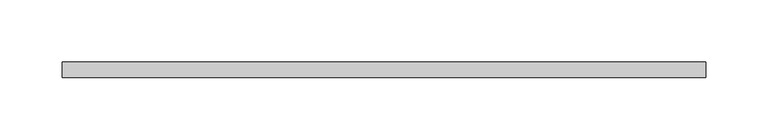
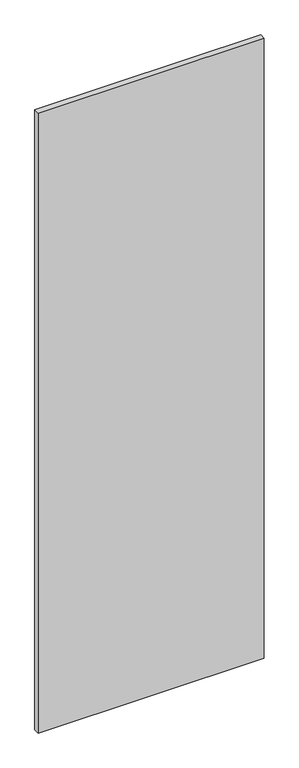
"""IFC4 building model written with IfcOpenShell, lengths in millimetres: proxy geometry, КНАУФ-Суперлист : КНАУФ-Суперлист."""

import ifcopenshell
import ifcopenshell.guid

model = None  # the IFC model being written
_history = None  # IfcOwnerHistory: only IFC2X3 demands one
_inside = {}  # id of a spatial element -> (the spatial element, [elements in it])
_under = {}  # id of a project, library or spatial element -> (it, [spatial elements below it])
_declared = {}  # id of a project -> (the project, [libraries it declares])
_typed = {}  # id of a type object -> (the type object, [elements of that type])
_made_of = {}  # id of a material, layer set ... -> (it, [elements and type objects made of it])


def new_model(schema):
    """Start an empty IFC model of exactly this schema.

    Asked for "IFC4X3", IfcOpenShell would pick the latest addendum, in which some entities
    have other attributes; the version numbers below select the first issue.
    IFC2X3 requires an IfcOwnerHistory on every rooted entity: one is made here for all.
    """
    global model, _history
    if schema == "IFC4X3":
        model = ifcopenshell.file(schema_version=(4, 3, 0, 0))
    else:
        model = ifcopenshell.file(schema=schema)
    _inside.clear()
    _under.clear()
    _declared.clear()
    _typed.clear()
    _made_of.clear()
    _history = None
    if model.schema == "IFC2X3":
        org = make("IfcOrganization", Name="unknown")
        user = make(
            "IfcPersonAndOrganization",
            ThePerson=make("IfcPerson", FamilyName="unknown"),
            TheOrganization=org,
        )
        app = make(
            "IfcApplication",
            ApplicationDeveloper=org,
            Version="unknown",
            ApplicationFullName="unknown",
            ApplicationIdentifier="unknown",
        )
        _history = make(
            "IfcOwnerHistory",
            OwningUser=user,
            OwningApplication=app,
            ChangeAction="ADDED",
            CreationDate=0,
        )
    return model


def make(cls, **values):
    """One entity of the class cls with the attributes given. An attribute that is None is left unset."""
    return model.create_entity(
        cls, **{name: value for name, value in values.items() if value is not None}
    )


def rooted(cls, **values):
    """An entity with a GlobalId (a new one), such as an element, a storey or a relation."""
    return make(cls, GlobalId=ifcopenshell.guid.new(), OwnerHistory=_history, **values)


def si_unit(unit_type, name, prefix=None):
    """IfcSIUnit, for example si_unit("LENGTHUNIT", "METRE", prefix="MILLI")."""
    return make("IfcSIUnit", UnitType=unit_type, Prefix=prefix, Name=name)


def assignment(units):
    """IfcUnitAssignment: the units of a project."""
    return None if units is None else make("IfcUnitAssignment", Units=units)


def point(xyz):
    """IfcCartesianPoint."""
    return None if xyz is None else make("IfcCartesianPoint", Coordinates=xyz)


def direction(xyz):
    """IfcDirection."""
    return None if xyz is None else make("IfcDirection", DirectionRatios=xyz)


def frame(location, z_axis=None, x_axis=None):
    """IfcAxis2Placement3D, a coordinate frame: its origin and axes. An axis left out is left unset."""
    return make(
        "IfcAxis2Placement3D",
        Location=point(location),
        Axis=direction(z_axis),
        RefDirection=direction(x_axis),
    )


def origin():
    """The frame at (0, 0, 0) with its axes left unset."""
    return frame((0.0, 0.0, 0.0))


def origin_with_axes():
    """The frame at (0, 0, 0) with the z axis (0, 0, 1) and the x axis (1, 0, 0) written out."""
    return frame((0.0, 0.0, 0.0), z_axis=(0.0, 0.0, 1.0), x_axis=(1.0, 0.0, 0.0))


def place(relative_to, where):
    """IfcLocalPlacement: puts the frame where relative to a parent placement (None: the world)."""
    return make(
        "IfcLocalPlacement", PlacementRelTo=relative_to, RelativePlacement=where
    )


def context(
    kind, dimensions, precision=None, world=None, true_north=None, identifier=None
):
    """IfcGeometricRepresentationContext, for example the 3D "Model" context."""
    return make(
        "IfcGeometricRepresentationContext",
        ContextIdentifier=identifier,
        ContextType=kind,
        CoordinateSpaceDimension=dimensions,
        Precision=precision,
        WorldCoordinateSystem=world,
        TrueNorth=true_north,
    )


def project(units=None, contexts=None):
    """IfcProject with its units and contexts."""
    return rooted(
        "IfcProject",
        Name="project",
        RepresentationContexts=contexts,
        UnitsInContext=assignment(units),
    )


def spatial(cls, under=None, at=None, **own):
    """A site, building, storey or space (cls), placed at a placement, below another one or the project."""
    s = rooted(cls, ObjectPlacement=at, **own)
    if under is not None:
        _under.setdefault(under.id(), (under, []))[1].append(s)
    return s


def polyline(points):
    """IfcPolyline through the points."""
    return make("IfcPolyline", Points=[point(p) for p in points])


def outline(outer, holes=None, kind="AREA"):
    """IfcArbitraryClosedProfileDef: a profile drawn as a closed curve; with holes, ...WithVoids."""
    if holes is None:
        return make("IfcArbitraryClosedProfileDef", ProfileType=kind, OuterCurve=outer)
    return make(
        "IfcArbitraryProfileDefWithVoids",
        ProfileType=kind,
        OuterCurve=outer,
        InnerCurves=holes,
    )


def extrude(swept, where, along, depth):
    """IfcExtrudedAreaSolid: the profile swept, set in the frame where, extruded along a direction by depth."""
    return make(
        "IfcExtrudedAreaSolid",
        SweptArea=swept,
        Position=where,
        ExtrudedDirection=direction(along),
        Depth=depth,
    )


def shape(context_of_items, identifier, shape_type, items):
    """IfcShapeRepresentation: the items that make up one representation, for example the "Body"."""
    return make(
        "IfcShapeRepresentation",
        ContextOfItems=context_of_items,
        RepresentationIdentifier=identifier,
        RepresentationType=shape_type,
        Items=items,
    )


def source(mapping_origin, context_of_items, identifier, shape_type, items):
    """IfcRepresentationMap: a shape defined once, which mapped items show again and again."""
    return make(
        "IfcRepresentationMap",
        MappingOrigin=mapping_origin,
        MappedRepresentation=shape(context_of_items, identifier, shape_type, items),
    )


def transform(
    local_origin,
    x_axis=None,
    y_axis=None,
    z_axis=None,
    scale=None,
    scale2=None,
    scale3=None,
    uniform=True,
):
    """IfcCartesianTransformationOperator3D, or its non-uniform kind. x_axis, y_axis, z_axis: its Axis1, 2, 3."""
    if uniform:
        return make(
            "IfcCartesianTransformationOperator3D",
            Axis1=direction(x_axis),
            Axis2=direction(y_axis),
            LocalOrigin=point(local_origin),
            Scale=scale,
            Axis3=direction(z_axis),
        )
    return make(
        "IfcCartesianTransformationOperator3DnonUniform",
        Axis1=direction(x_axis),
        Axis2=direction(y_axis),
        LocalOrigin=point(local_origin),
        Scale=scale,
        Axis3=direction(z_axis),
        Scale2=scale2,
        Scale3=scale3,
    )


def mapped(mapping_source, mapping_target):
    """IfcMappedItem: shows the shape of a source again, moved by a transform."""
    return make(
        "IfcMappedItem", MappingSource=mapping_source, MappingTarget=mapping_target
    )


def made_of(thing, what):
    """Note that an element or type object is made of a material, layer set ...; save() writes the relation."""
    if what is not None:
        _made_of.setdefault(what.id(), (what, []))[1].append(thing)
    return thing


def element(
    cls,
    number,
    at=None,
    inside=None,
    cuts=None,
    type_object=None,
    material=None,
    context=None,
    identifier="Body",
    shape_type=None,
    held_by="IfcProductDefinitionShape",
    body=None,
    shapes=None,
    **own,
):
    """One element of the class cls, such as IfcWall. Its Tag is "e" and its number.

    at: its placement. inside: the storey or other place that contains it. cuts: it is an
    opening in that element (IfcRelVoidsElement). A single representation is given by context,
    identifier, shape_type and body (its items); several are given by shapes. held_by: the class
    of the entity that holds the representations. save() writes the other relations.
    """
    e = rooted(cls, Tag="e%d" % number, ObjectPlacement=at, **own)
    if body is not None:
        shapes = [shape(context, identifier, shape_type, body)]
    if shapes is not None:
        e.Representation = make(held_by, Representations=shapes)
    if inside is not None:
        _inside.setdefault(inside.id(), (inside, []))[1].append(e)
    if cuts is not None:
        rooted(
            "IfcRelVoidsElement", RelatingBuildingElement=cuts, RelatedOpeningElement=e
        )
    if type_object is not None:
        _typed.setdefault(type_object.id(), (type_object, []))[1].append(e)
    return made_of(e, material)


def aggregate(whole, parts):
    """IfcRelAggregates: a whole, such as a stair, and the parts it consists of."""
    return rooted("IfcRelAggregates", RelatingObject=whole, RelatedObjects=parts)


def save(model, path):
    """Write the relations noted so far, then the file.

    IfcRelAggregates (storeys below a building ...), IfcRelContainedInSpatialStructure (elements
    in a storey), IfcRelDefinesByType, IfcRelAssociatesMaterial and IfcRelDeclares: one each for
    every whole, place, type object, material and project.
    """
    for whole, parts in _under.values():
        aggregate(whole, parts)
    for where, things in _inside.values():
        rooted(
            "IfcRelContainedInSpatialStructure",
            RelatedElements=things,
            RelatingStructure=where,
        )
    for kind, things in _typed.values():
        rooted("IfcRelDefinesByType", RelatedObjects=things, RelatingType=kind)
    for what, things in _made_of.values():
        rooted("IfcRelAssociatesMaterial", RelatedObjects=things, RelatingMaterial=what)
    for by, libraries in _declared.values():
        rooted("IfcRelDeclares", RelatingContext=by, RelatedDefinitions=libraries)
    model.write(path)


def generic_models_de24bb9f(model_context):
    return source(origin(), model_context, "Body", "SweptSolid", [
        extrude(outline(polyline([(259.0, 0.0), (-259.0, 0.0), (-259.0, 12.5), (259.0, 12.5), (259.0, 0.0)])), origin_with_axes(), (0.0, 0.0, 1.0), 1500.0),
    ])


if __name__ == "__main__":
    model = new_model("IFC4")
    model_context = context("Model", 3, world=origin())
    ifc_project = project(units=[si_unit("LENGTHUNIT", "METRE", prefix="MILLI")], contexts=[model_context])
    site = spatial("IfcSite", under=ifc_project)
    building = spatial("IfcBuilding", under=site)
    placement = place(None, origin())
    generic_models_shape = generic_models_de24bb9f(model_context)
    element("IfcBuildingElementProxy", 1, Name="КНАУФ-Суперлист : КНАУФ-Суперлист", ObjectType="КНАУФ-Суперлист : КНАУФ-Суперлист", at=placement, inside=building, context=model_context, shape_type="MappedRepresentation", body=[
        mapped(generic_models_shape, transform((0.0, 0.0, 0.0), x_axis=(1.0, 0.0, 0.0), y_axis=(0.0, 1.0, 0.0), z_axis=(0.0, 0.0, 1.0))),
    ])
    save(model, "model.ifc")
